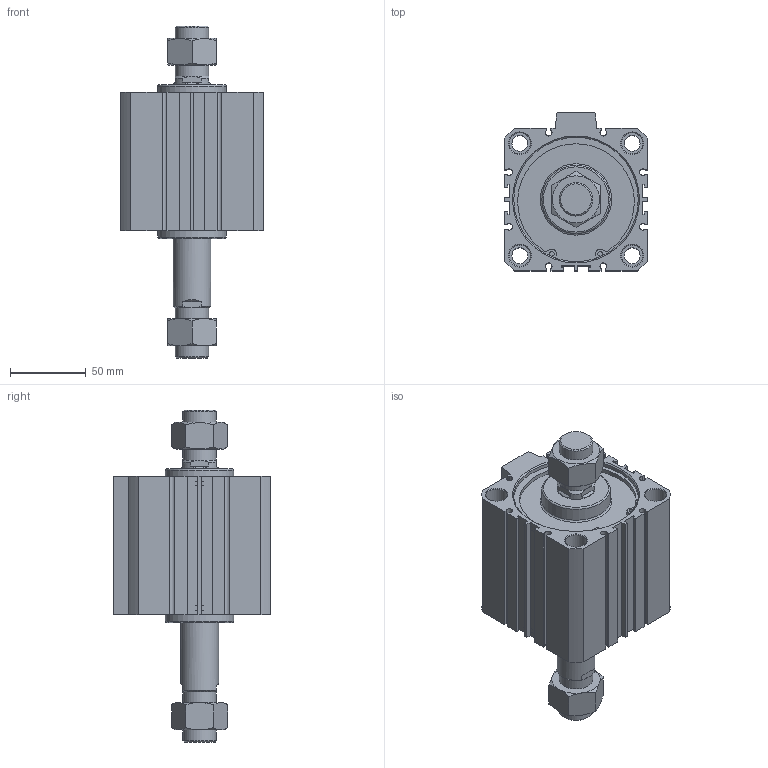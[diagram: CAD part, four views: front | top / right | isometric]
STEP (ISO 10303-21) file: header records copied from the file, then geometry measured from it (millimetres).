
FILE_DESCRIPTION((''),'2;1');
FILE_NAME('I:\3D電子目錄\氣缸\JDD\JDD-BS\JDD80-BS\JDD80x40-BS.stp','2007-02-28T08:41:06',('662F206'),(''),'Autodesk Inventor 10','Autodesk Inventor 10','');
FILE_SCHEMA(('AUTOMOTIVE_DESIGN { 1 0 10303 214 1 1 1 1 }'));
Length unit declared in the file: millimetre
Products named in the file (3): JDD80-BS; R 形環 82
Assembly tree (3 placements, depth 2):
  JDD80-BS
    JDD80-BS
    R 形環 82  x2
Bounding box: 94 x 104 x 218.7 mm (x, y, z)
Volume: 800017.6 mm3; surface area: 105089.1 mm2
Topology: 3 solids, 3 shells, 226 faces, 548 edges, 354 vertices
Faces by surface type: plane 130, cylinder 56, cone 36, bspline 2, torus 2
Full cylindrical faces by diameter (mm): 3.1 x4, 3.5 x2, 10.4 x4, 14 x8, 22 x4, 25 x2, 45 x2, 82 x4, 85.5 x2
Entity records: 6033 total; most frequent: CARTESIAN_POINT 1188, DIRECTION 994, ORIENTED_EDGE 916, EDGE_CURVE 458, AXIS2_PLACEMENT_3D 366, VERTEX_POINT 326, EDGE_LOOP 304, VECTOR 262
